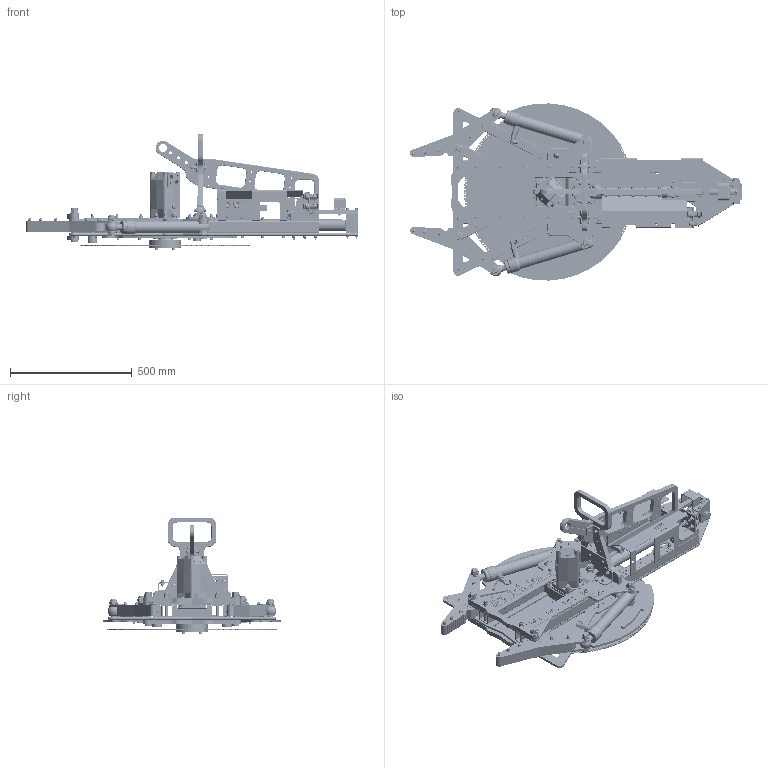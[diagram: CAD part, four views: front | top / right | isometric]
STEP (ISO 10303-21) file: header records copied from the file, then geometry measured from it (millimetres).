
FILE_DESCRIPTION(/* description */ (''),/* implementation_level */ '2;1');
FILE_NAME(/* name */ 'IKM-1077988.stp',/* time_stamp */ '2025-04-29T12:28:55+02:00',/* author */ ('KateB'),/* organization */ (''),/* preprocessor_version */ 'ST-DEVELOPER v19.2',/* originating_system */ 'Autodesk Inventor 2023',/* authorisation */ '');
FILE_SCHEMA (('AUTOMOTIVE_DESIGN { 1 0 10303 214 3 1 1 }'));
Products named in the file (1): FusionComponent
Bounding box: 1366.26 x 729.27 x 481 mm (x, y, z)
Volume: 20864172.1 mm3; surface area: 4521144.3 mm2
Topology: 6 solids, 117 shells, 10103 faces, 25099 edges, 15799 vertices
Faces by surface type: plane 4648, cylinder 3017, cone 1381, torus 649, bspline 337, sphere 71
Full cylindrical faces by diameter (mm): 0.788 x2, 2.2 x4, 2.431 x4, 4.7 x2, 5 x8, 5.3 x4, 5.5 x8, 6 x54, 6.4 x27, 6.5 x14, 6.6 x80, 6.647 x3, 6.9 x4, 7 x25, 7.2 x1, 7.323 x27, 7.5 x6, 7.95 x1, 8 x89, 8.376 x6, 8.4 x83, 8.5 x29, 8.7 x3, 8.9 x19, 9 x81, 10 x32, 10.1 x4, 10.2 x4, 10.5 x9, 10.8 x4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
Entity records: 306573 total; most frequent: CARTESIAN_POINT 65207, DIRECTION 50694, ORIENTED_EDGE 50068, EDGE_CURVE 25034, AXIS2_PLACEMENT_3D 19128, VERTEX_POINT 15799, LINE 12438, VECTOR 12438
